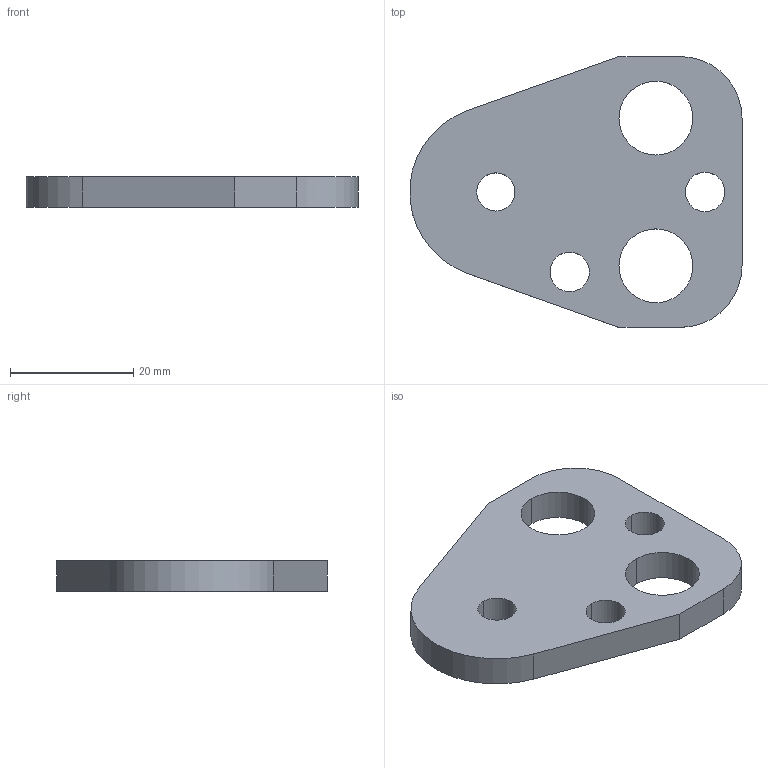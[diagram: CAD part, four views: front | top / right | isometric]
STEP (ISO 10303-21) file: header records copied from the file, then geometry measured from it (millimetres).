
FILE_DESCRIPTION(/* description */ (''),/* implementation_level */ '2;1');
FILE_NAME(/* name */ '3d_bpc16_03416_r00.stp',/* time_stamp */ '2011-01-10T14:17:10+09:00',/* author */ ('MISUMI'),/* organization */ (''),/* preprocessor_version */ 'ST-DEVELOPER v11',/* originating_system */ 'UGS - NX 5.0',/* authorisation */ '');
FILE_SCHEMA (('CONFIG_CONTROL_DESIGN'));
Length unit declared in the file: millimetre
Products named in the file (1): 3d_bpc16_03416_r00
Bounding box: 53.95 x 44 x 5 mm (x, y, z)
Volume: 7821.4 mm3; surface area: 4615.3 mm2
Topology: 1 solids, 1 shells, 20 faces, 54 edges, 36 vertices
Faces by surface type: cylinder 13, plane 7
Entity records: 750 total; most frequent: DIRECTION 122, CARTESIAN_POINT 111, ORIENTED_EDGE 108, EDGE_CURVE 54, AXIS2_PLACEMENT_3D 47, VERTEX_POINT 36, EDGE_LOOP 30, LINE 28
